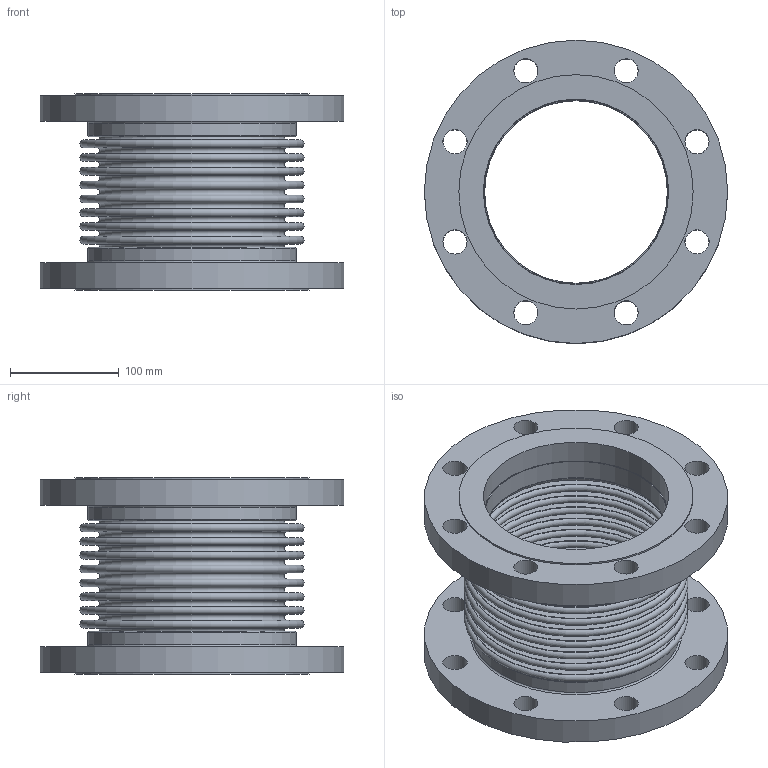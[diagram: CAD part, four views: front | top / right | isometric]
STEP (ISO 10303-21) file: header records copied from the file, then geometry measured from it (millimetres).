
FILE_DESCRIPTION(/* description */ ('EXPANSION JOINT,SINGLE, FLANGED ENDS,6 INCH NOMINAL','CAx-IF Rec.Pracs.---Representation and Presentation of Product Manufacturing Information (PMI)---4.0---2014-10-13'),/* implementation_level */ '2;1');
FILE_NAME(/* name */ 'US-06-8-85S-FLANGED ENDS.stp',/* time_stamp */ '2026-07-31T18:03:25-05:00',/* author */ ('Guadalupe'),/* organization */ (''),/* preprocessor_version */ 'ST-DEVELOPER v20.1',/* originating_system */ 'Autodesk Inventor 2026',/* authorisation */ '');
FILE_SCHEMA (('AP242_MANAGED_MODEL_BASED_3D_ENGINEERING_MIM_LF { 1 0 10303 442 2 1 4 }'));
Length unit declared in the file: inch
Products named in the file (3): 06-85S; 06-85S-02; 06-85S-01
Assembly tree (3 placements, depth 2):
  06-85S
    06-85S-02  x2
    06-85S-01
Bounding box: 279.4 x 279.4 x 180.85 mm (x, y, z)
Volume: 2074277.3 mm3; surface area: 725587.5 mm2
Topology: 5 solids, 5 shells, 112 faces, 198 edges, 132 vertices
Faces by surface type: plane 46, torus 38, cylinder 28
Full cylindrical faces by diameter (mm): 22.225 x16, 168.275 x2, 169.799 x2, 170.688 x2, 192.024 x2, 215.9 x2, 279.4 x2
Entity records: 2558 total; most frequent: DIRECTION 522, CARTESIAN_POINT 377, ORIENTED_EDGE 312, AXIS2_PLACEMENT_3D 253, EDGE_CURVE 156, EDGE_LOOP 152, CIRCLE 140, VERTEX_POINT 104
